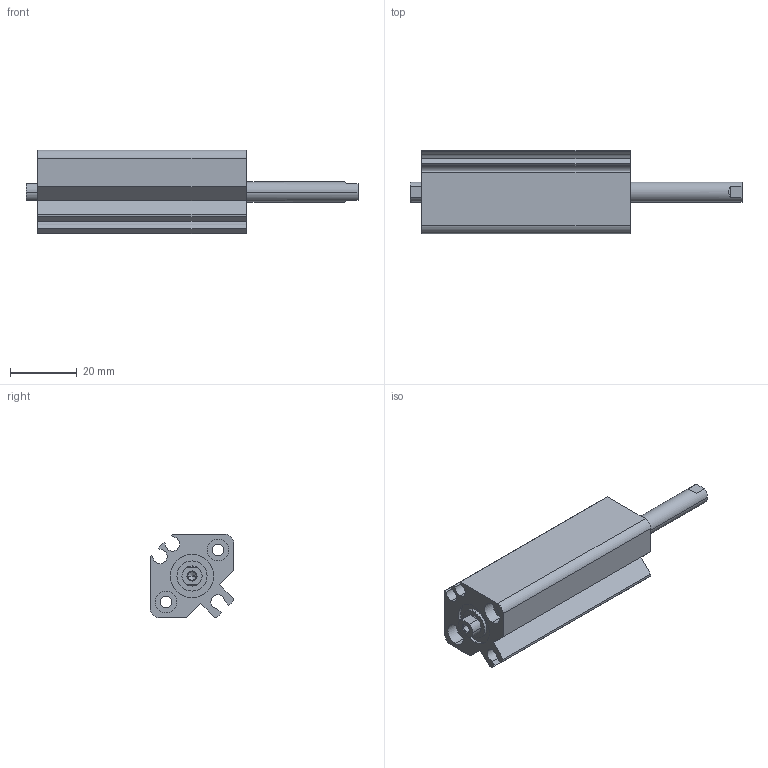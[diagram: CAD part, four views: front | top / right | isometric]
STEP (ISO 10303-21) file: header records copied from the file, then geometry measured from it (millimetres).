
FILE_DESCRIPTION (( 'STEP AP203' ), '1' );
FILE_NAME ('CCMB12-30F-P.STEP', '2020-08-05T11:02:29', ( '' ), ( '' ), 'SwSTEP 2.0', 'SolidWorks 2019', '' );
FILE_SCHEMA (( 'CONFIG_CONTROL_DESIGN' ));
Length unit declared in the file: millimetre
Products named in the file (1): CCMB12-30F-P
Bounding box: 99.4 x 25 x 25 mm (x, y, z)
Volume: 28000.2 mm3; surface area: 14972.3 mm2
Topology: 2 solids, 2 shells, 109 faces, 261 edges, 168 vertices
Faces by surface type: cylinder 50, plane 47, cone 12
Entity records: 3250 total; most frequent: DIRECTION 585, CARTESIAN_POINT 547, ORIENTED_EDGE 514, EDGE_CURVE 257, AXIS2_PLACEMENT_3D 222, VERTEX_POINT 168, LINE 141, VECTOR 141
